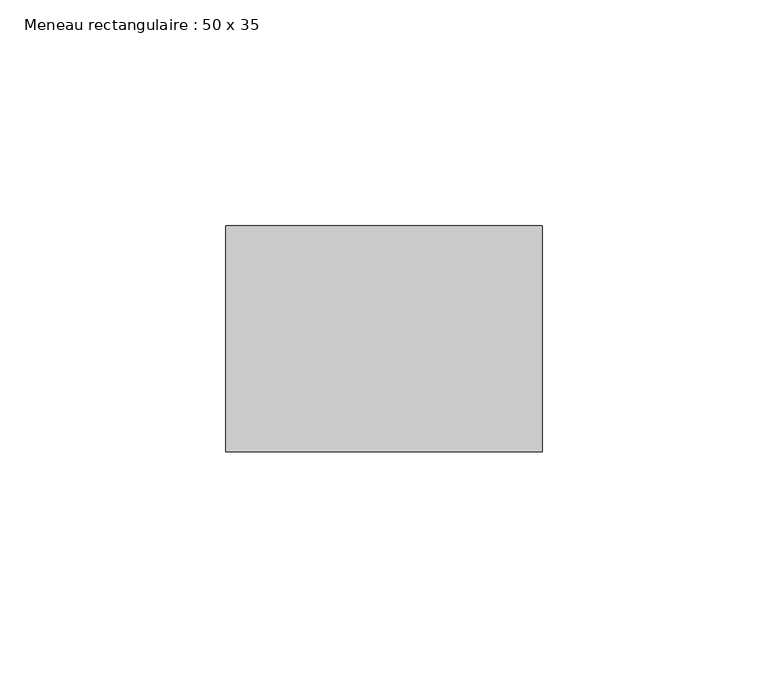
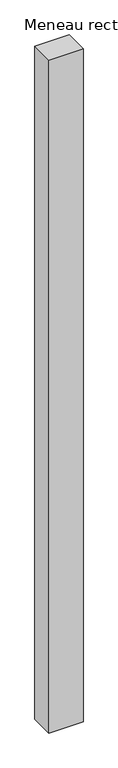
"""IFC4 building model written with IfcOpenShell, lengths in millimetres: member geometry, Meneau rectangulaire : 50 x 35."""

from ifc_helpers import new_model, si_unit, frame, origin, place, context, project, spatial, polyline, outline, extrude, source, transform, mapped, element, save


def meneau_rectangulaire_50_x_35_5faaa6f3(model_context):
    return source(origin(), model_context, "Body", "SweptSolid", [
        extrude(outline(polyline([(0.0, 0.0), (0.0, -50.0), (-70.0, -50.0), (-70.0, 0.0), (0.0, 0.0)])), frame((0.0, 0.0, -1460.3707043), z_axis=(0.0, 0.0, 1.0), x_axis=(1.0, 0.0, 0.0)), (0.0, 0.0, 1.0), 1460.3707043),
    ])


if __name__ == "__main__":
    model = new_model("IFC4")
    model_context = context("Model", 3, world=origin())
    ifc_project = project(units=[si_unit("LENGTHUNIT", "METRE", prefix="MILLI")], contexts=[model_context])
    site = spatial("IfcSite", under=ifc_project)
    building = spatial("IfcBuilding", under=site)
    placement = place(None, origin())
    meneau_rectangulaire_50_x_35_shape = meneau_rectangulaire_50_x_35_5faaa6f3(model_context)
    element("IfcMember", 1, ObjectType="Meneau rectangulaire : 50 x 35", at=placement, inside=building, context=model_context, shape_type="MappedRepresentation", body=[
        mapped(meneau_rectangulaire_50_x_35_shape, transform((0.0, 0.0, 0.0), x_axis=(1.0, 0.0, 0.0), y_axis=(0.0, 1.0, 0.0), z_axis=(0.0, 0.0, 1.0))),
    ])
    save(model, "model.ifc")
